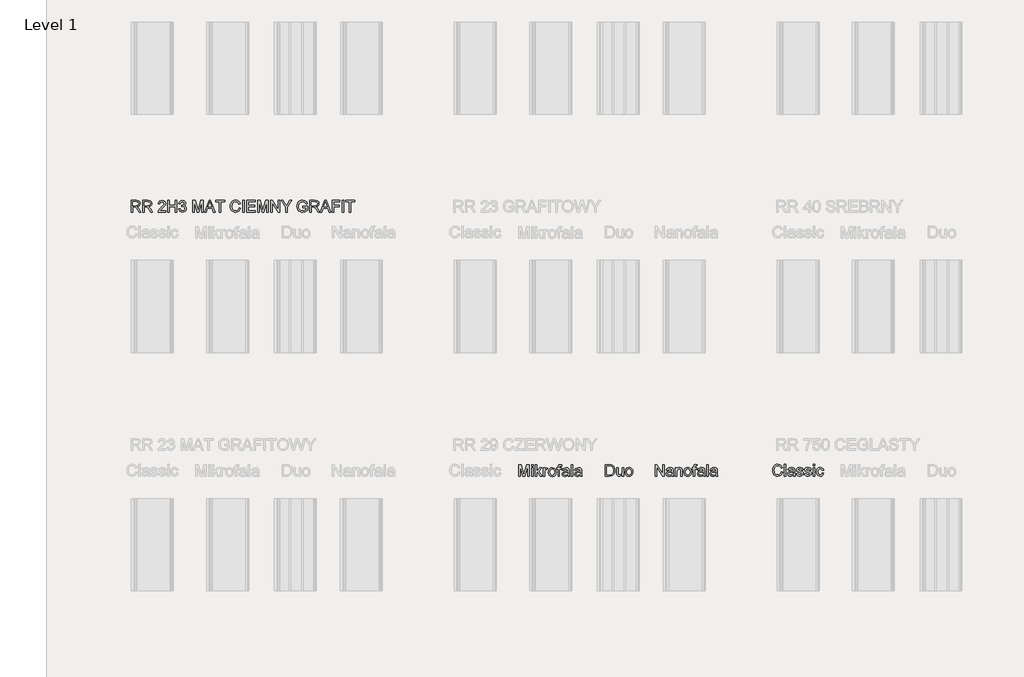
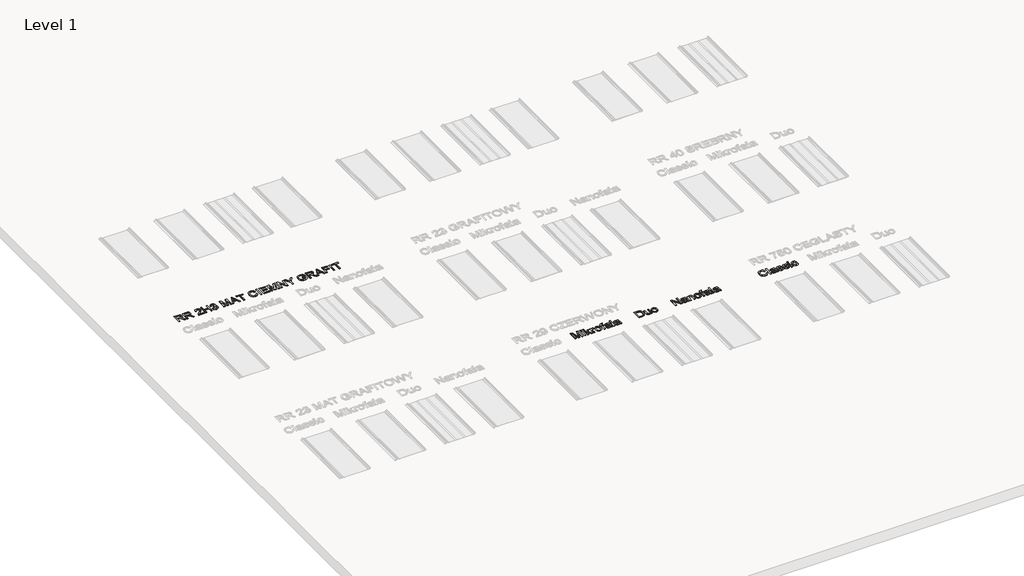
# One storey, part 11 of 22: 5 proxies.
"""IFC4 building model written with IfcOpenShell, lengths in millimetres."""

from ifc_helpers import new_model, si_unit, frame, origin, place, context, project, spatial, polyline, outline, extrude, element, save

model = new_model("IFC4")

# Units and contexts
model_context = context("Model", 3, world=origin())
ifc_project = project(units=[si_unit("LENGTHUNIT", "METRE", prefix="MILLI")], contexts=[model_context])

# Site, building, storey
site = spatial("IfcSite", under=ifc_project)
building = spatial("IfcBuilding", under=site)
storey = spatial("IfcBuildingStorey", under=building, Name="Level 1", Elevation=0.0)

# Proxies
placement = place(None, origin())
element("IfcBuildingElementProxy", 1, Name="150", ObjectType="150", at=placement, inside=storey, context=model_context, shape_type="SweptSolid", body=[
    extrude(outline(polyline([(-3695.6654959, -5075.281387), (-3695.6654959, -4924.5969218), (-3663.3654568, -4924.5969218), (-3632.4633692, -5030.8044538), (-3626.2093753, -5052.9877381), (-3619.4771347, -5028.9650438), (-3589.1636583, -4924.5969218), (-3556.7532546, -4924.5969218), (-3556.7532546, -5075.281387), (-3575.5888127, -5075.281387), (-3575.5888127, -4943.4324799), (-3613.44387, -5075.281387), (-3638.9380923, -5075.281387), (-3676.8299378, -4943.4324799), (-3676.8299378, -5075.281387), (-3695.6654959, -5075.281387)])), frame((0.0, 0.0, 600.0), z_axis=(0.0, 0.0, 1.0), x_axis=(1.0, 0.0, 0.0)), (0.0, 0.0, 1.0), 10.0),
    extrude(outline(polyline([(-3526.1454726, -4943.4324799), (-3526.1454726, -4924.5969218), (-3507.3099144, -4924.5969218), (-3507.3099144, -4943.4324799), (-3526.1454726, -4943.4324799)])), frame((0.0, 0.0, 600.0), z_axis=(0.0, 0.0, 1.0), x_axis=(1.0, 0.0, 0.0)), (0.0, 0.0, 1.0), 10.0),
    extrude(outline(polyline([(-3526.1454726, -5075.281387), (-3526.1454726, -4964.6224829), (-3507.3099144, -4964.6224829), (-3507.3099144, -5075.281387), (-3526.1454726, -5075.281387)])), frame((0.0, 0.0, 600.0), z_axis=(0.0, 0.0, 1.0), x_axis=(1.0, 0.0, 0.0)), (0.0, 0.0, 1.0), 10.0),
    extrude(outline(polyline([(-3479.0565772, -5075.281387), (-3479.0565772, -4924.5969218), (-3460.221019, -4924.5969218), (-3460.221019, -5005.5677489), (-3417.988166, -4964.6224829), (-3391.9421207, -4964.6224829), (-3434.7267968, -5006.0827837), (-3389.587676, -5075.281387), (-3411.5870193, -5075.281387), (-3448.228066, -5019.1793827), (-3460.221019, -5030.841242), (-3460.221019, -5075.281387), (-3479.0565772, -5075.281387)])), frame((0.0, 0.0, 600.0), z_axis=(0.0, 0.0, 1.0), x_axis=(1.0, 0.0, 0.0)), (0.0, 0.0, 1.0), 10.0),
    extrude(outline(polyline([(-3373.1065626, -5075.281387), (-3373.1065626, -4964.6224829), (-3356.6254492, -4964.6224829), (-3356.6254492, -4980.9932316), (-3344.9268017, -4965.9100698), (-3333.1545779, -4962.2680381), (-3314.2454433, -4968.0805736), (-3320.5362255, -4984.9663572), (-3333.7799773, -4981.1035962), (-3344.4301611, -4984.8192044), (-3351.2175839, -4995.1199003), (-3354.2710044, -5017.1192436), (-3354.2710044, -5075.281387), (-3373.1065626, -5075.281387)])), frame((0.0, 0.0, 600.0), z_axis=(0.0, 0.0, 1.0), x_axis=(1.0, 0.0, 0.0)), (0.0, 0.0, 1.0), 10.0),
    extrude(outline(polyline([(-3307.182109, -5019.9519349), (-3303.1078159, -4993.2712932), (-3290.8849367, -4974.5185085), (-3275.7833808, -4965.3306557), (-3257.7019807, -4962.2680381), (-3237.9145279, -4965.9974418), (-3222.1093977, -4977.185653), (-3211.748921, -4994.9497548), (-3208.2954287, -5018.4068306), (-3209.822139, -5037.4355268), (-3214.4022699, -5051.9208803), (-3221.902464, -5062.7688007), (-3232.1893643, -5070.8851972), (-3244.4076451, -5075.9481731), (-3257.7019807, -5077.6358318), (-3277.7285568, -5073.9202236), (-3293.5152929, -5062.7733992), (-3303.765405, -5044.6368168), (-3307.182109, -5019.9519349)]), holes=[polyline([(-3288.3465509, -5019.9151467), (-3286.1668501, -5036.9618787), (-3279.6277476, -5049.1065831), (-3269.7869042, -5056.376851), (-3257.7019807, -5058.8002736), (-3245.6722394, -5056.3630554), (-3235.8497902, -5049.0514008), (-3229.3106877, -5036.745748), (-3227.1309869, -5019.3265355), (-3229.3244833, -5002.7764443), (-3235.9049725, -4990.7972868), (-3245.7412173, -4983.5270189), (-3257.7019807, -4981.1035962), (-3269.7869042, -4983.5178218), (-3279.6277476, -4990.7604986), (-3286.1668501, -5002.8776118), (-3288.3465509, -5019.9151467)])]), frame((0.0, 0.0, 600.0), z_axis=(0.0, 0.0, 1.0), x_axis=(1.0, 0.0, 0.0)), (0.0, 0.0, 1.0), 10.0),
    extrude(outline(polyline([(-3182.3965363, -5075.281387), (-3182.3965363, -4983.458041), (-3198.8776497, -4983.458041), (-3198.8776497, -4964.6224829), (-3182.3965363, -4964.6224829), (-3182.3965363, -4953.4756584), (-3180.4099735, -4937.7670972), (-3170.7714652, -4926.5466964), (-3151.7887543, -4922.242477), (-3134.6086651, -4924.3026162), (-3137.3677801, -4941.960952), (-3148.2202989, -4941.0780352), (-3160.0844933, -4944.2050321), (-3163.5609781, -4955.8668914), (-3163.5609781, -4964.6224829), (-3142.3709752, -4964.6224829), (-3142.3709752, -4983.458041), (-3163.5609781, -4983.458041), (-3163.5609781, -5075.281387), (-3182.3965363, -5075.281387)])), frame((0.0, 0.0, 600.0), z_axis=(0.0, 0.0, 1.0), x_axis=(1.0, 0.0, 0.0)), (0.0, 0.0, 1.0), 10.0),
    extrude(outline(polyline([(-3055.2565187, -5061.1547184), (-3073.5218598, -5073.9202236), (-3093.7001872, -5077.6358318), (-3109.4409381, -5075.4009487), (-3121.0522136, -5068.6962993), (-3128.2121169, -5058.5151651), (-3130.5987514, -5045.8508274), (-3126.9935078, -5030.9516066), (-3117.5205464, -5020.1358759), (-3104.3319769, -5013.9554584), (-3088.0348045, -5011.1227671), (-3055.3668833, -5004.6480439), (-3055.2565187, -5000.4541892), (-3056.5533028, -4992.0480856), (-3060.4436549, -4986.5482498), (-3069.1440641, -4982.4647596), (-3081.2657758, -4981.1035962), (-3100.3220632, -4984.7272339), (-3109.4087484, -4997.5847096), (-3128.2443066, -4995.2302649), (-3120.0957204, -4976.8361651), (-3103.6881834, -4966.0572226), (-3078.8377546, -4962.2680381), (-3056.0106768, -4965.6157643), (-3043.1164129, -4974.0218678), (-3037.3406656, -4986.8057672), (-3036.4209606, -5003.2868806), (-3036.4209606, -5026.7209636), (-3035.4644674, -5059.4440671), (-3031.7120711, -5075.281387), (-3050.5476292, -5075.281387), (-3055.2565187, -5061.1547184)]), holes=[polyline([(-3055.2565187, -5023.4836021), (-3085.6435715, -5029.2593494), (-3101.8487734, -5032.31277), (-3109.1880192, -5037.2791769), (-3111.7631932, -5044.5264522), (-3106.1529928, -5054.7167835), (-3089.6902735, -5058.8002736), (-3070.6339861, -5054.2937192), (-3058.3467275, -5043.386018), (-3055.3668833, -5028.817891), (-3055.2565187, -5023.4836021)])]), frame((0.0, 0.0, 600.0), z_axis=(0.0, 0.0, 1.0), x_axis=(1.0, 0.0, 0.0)), (0.0, 0.0, 1.0), 10.0),
    extrude(outline(polyline([(-3010.5220681, -5075.281387), (-3010.5220681, -4924.5969218), (-2991.68651, -4924.5969218), (-2991.68651, -5075.281387), (-3010.5220681, -5075.281387)])), frame((0.0, 0.0, 600.0), z_axis=(0.0, 0.0, 1.0), x_axis=(1.0, 0.0, 0.0)), (0.0, 0.0, 1.0), 10.0),
    extrude(outline(polyline([(-2892.7998297, -5061.1547184), (-2911.0651707, -5073.9202236), (-2931.2434982, -5077.6358318), (-2946.984249, -5075.4009487), (-2958.5955245, -5068.6962993), (-2965.7554278, -5058.5151651), (-2968.1420623, -5045.8508274), (-2964.5368187, -5030.9516066), (-2955.0638574, -5020.1358759), (-2941.8752878, -5013.9554584), (-2925.5781154, -5011.1227671), (-2892.9101943, -5004.6480439), (-2892.7998297, -5000.4541892), (-2894.0966137, -4992.0480856), (-2897.9869658, -4986.5482498), (-2906.687375, -4982.4647596), (-2918.8090867, -4981.1035962), (-2937.8653741, -4984.7272339), (-2946.9520594, -4997.5847096), (-2965.7876175, -4995.2302649), (-2957.6390313, -4976.8361651), (-2941.2314943, -4966.0572226), (-2916.3810656, -4962.2680381), (-2893.5539878, -4965.6157643), (-2880.6597238, -4974.0218678), (-2874.8839765, -4986.8057672), (-2873.9642715, -5003.2868806), (-2873.9642715, -5026.7209636), (-2873.0077783, -5059.4440671), (-2869.255382, -5075.281387), (-2888.0909401, -5075.281387), (-2892.7998297, -5061.1547184)]), holes=[polyline([(-2892.7998297, -5023.4836021), (-2923.1868825, -5029.2593494), (-2939.3920844, -5032.31277), (-2946.7313302, -5037.2791769), (-2949.3065041, -5044.5264522), (-2943.6963037, -5054.7167835), (-2927.2335844, -5058.8002736), (-2908.1772971, -5054.2937192), (-2895.8900384, -5043.386018), (-2892.9101943, -5028.817891), (-2892.7998297, -5023.4836021)])]), frame((0.0, 0.0, 600.0), z_axis=(0.0, 0.0, 1.0), x_axis=(1.0, 0.0, 0.0)), (0.0, 0.0, 1.0), 10.0),
])
element("IfcBuildingElementProxy", 2, Name="150", ObjectType="150", at=placement, inside=storey, context=model_context, shape_type="SweptSolid", body=[
    extrude(outline(polyline([(-2567.5807075, -5072.1592468), (-2567.5807075, -4921.4747816), (-2515.5989816, -4921.4747816), (-2488.7068077, -4923.6452853), (-2466.5603116, -4934.4242278), (-2456.1400541, -4945.902146), (-2448.7180349, -4960.1759675), (-2444.2758598, -4976.9697805), (-2442.7951347, -4996.0076738), (-2446.8050485, -5026.4131207), (-2457.1057443, -5048.3572817), (-2470.864531, -5062.0240978), (-2488.8723546, -5069.5840728), (-2513.097384, -5072.1592468), (-2567.5807075, -5072.1592468)]), holes=[polyline([(-2548.7451493, -5053.3236886), (-2515.4150406, -5053.3236886), (-2491.1716171, -5050.6013619), (-2477.1921013, -5042.9126282), (-2465.7325771, -5024.2058287), (-2461.6306929, -4995.7133682), (-2463.6402483, -4975.1855529), (-2469.6689145, -4960.0288147), (-2478.5762573, -4949.6177542), (-2489.2218425, -4943.3269721), (-2515.9300754, -4940.3103397), (-2548.7451493, -4940.3103397), (-2548.7451493, -5053.3236886)])]), frame((0.0, 0.0, 600.0), z_axis=(0.0, 0.0, 1.0), x_axis=(1.0, 0.0, 0.0)), (0.0, 0.0, 1.0), 10.0),
    extrude(outline(polyline([(-2348.617344, -5072.1592468), (-2348.617344, -5053.1397476), (-2363.369412, -5069.1702056), (-2382.6096403, -5074.5136916), (-2400.3231584, -5070.7612952), (-2412.5368406, -5061.3435161), (-2418.1470411, -5047.4743649), (-2419.250687, -5029.9631819), (-2419.250687, -4961.5003426), (-2400.4151289, -4961.5003426), (-2400.4151289, -5021.0972259), (-2399.2746947, -5040.300666), (-2391.8250843, -5051.5762492), (-2377.7903862, -5055.6781334), (-2362.0634309, -5051.4842787), (-2351.6707645, -5040.0615427), (-2348.617344, -5019.0738749), (-2348.617344, -4961.5003426), (-2329.7817858, -4961.5003426), (-2329.7817858, -5072.1592468), (-2348.617344, -5072.1592468)])), frame((0.0, 0.0, 600.0), z_axis=(0.0, 0.0, 1.0), x_axis=(1.0, 0.0, 0.0)), (0.0, 0.0, 1.0), 10.0),
    extrude(outline(polyline([(-2308.5917829, -5016.8297947), (-2304.5174898, -4990.149153), (-2292.2946105, -4971.3963683), (-2277.1930546, -4962.2085155), (-2259.1116545, -4959.1458979), (-2239.3242017, -4962.8753016), (-2223.5190715, -4974.0635128), (-2213.1585948, -4991.8276146), (-2209.7051026, -5015.2846903), (-2211.2318129, -5034.3133865), (-2215.8119437, -5048.7987401), (-2223.3121379, -5059.6466604), (-2233.5990382, -5067.7630569), (-2245.8173189, -5072.8260329), (-2259.1116545, -5074.5136916), (-2279.1382307, -5070.7980834), (-2294.9249668, -5059.651259), (-2305.1750789, -5041.5146766), (-2308.5917829, -5016.8297947)]), holes=[polyline([(-2289.7562247, -5016.7930065), (-2287.5765239, -5033.8397385), (-2281.0374215, -5045.9844428), (-2271.1965781, -5053.2547108), (-2259.1116545, -5055.6781334), (-2247.0819133, -5053.2409152), (-2237.259464, -5045.9292605), (-2230.7203616, -5033.6236078), (-2228.5406607, -5016.2043953), (-2230.7341571, -4999.6543041), (-2237.3146463, -4987.6751466), (-2247.1508912, -4980.4048787), (-2259.1116545, -4977.981456), (-2271.1965781, -4980.3956816), (-2281.0374215, -4987.6383584), (-2287.5765239, -4999.7554716), (-2289.7562247, -5016.7930065)])]), frame((0.0, 0.0, 600.0), z_axis=(0.0, 0.0, 1.0), x_axis=(1.0, 0.0, 0.0)), (0.0, 0.0, 1.0), 10.0),
])
element("IfcBuildingElementProxy", 3, Name="150", ObjectType="150", at=placement, inside=storey, context=model_context, shape_type="SweptSolid", body=[
    extrude(outline(polyline([(-279.0085992, -5017.1818641), (-260.1730411, -5022.0379064), (-268.8642532, -5043.986666), (-282.5034782, -5060.0217224), (-300.4193314, -5069.8303761), (-321.9404281, -5073.0999274), (-343.7880201, -5070.6259209), (-361.1382547, -5063.2039017), (-374.4371888, -5051.091387), (-384.1308794, -5034.5458943), (-390.049181, -5015.0941338), (-392.0219482, -4994.2628158), (-389.7916636, -4972.2910636), (-383.1008098, -4953.3175497), (-372.2988747, -4937.9446809), (-357.7353462, -4926.7748638), (-340.4632865, -4919.9736454), (-321.5357579, -4917.7065726), (-300.8837824, -4920.6404315), (-283.8094593, -4929.4420082), (-270.8462175, -4943.5686769), (-262.5274859, -4962.4778114), (-281.363044, -4966.9659718), (-287.8929494, -4953.2301778), (-296.8140878, -4943.8078002), (-308.2368238, -4938.3585481), (-322.2715219, -4936.5421308), (-338.4491326, -4938.5562847), (-351.7388697, -4944.5987464), (-361.8234349, -4954.0349196), (-368.38553, -4966.2302078), (-373.18639, -4994.2260276), (-371.7654458, -5011.626846), (-367.5026132, -5026.6732196), (-360.2369438, -5038.7903328), (-349.8074892, -5047.40337), (-337.3040999, -5052.5491194), (-323.8166263, -5054.2643692), (-308.0942695, -5051.9283185), (-294.9930719, -5044.9201665), (-285.1016448, -5033.3134896), (-279.0085992, -5017.1818641)])), frame((0.0, 0.0, 600.0), z_axis=(0.0, 0.0, 1.0), x_axis=(1.0, 0.0, 0.0)), (0.0, 0.0, 1.0), 10.0),
    extrude(outline(polyline([(-236.6285934, -5070.7454826), (-236.6285934, -4920.0610174), (-217.7930352, -4920.0610174), (-217.7930352, -5070.7454826), (-236.6285934, -5070.7454826)])), frame((0.0, 0.0, 600.0), z_axis=(0.0, 0.0, 1.0), x_axis=(1.0, 0.0, 0.0)), (0.0, 0.0, 1.0), 10.0),
    extrude(outline(polyline([(-118.9063549, -5056.618814), (-137.171696, -5069.3843192), (-157.3500234, -5073.0999274), (-173.0907743, -5070.8650442), (-184.7020498, -5064.1603949), (-191.8619531, -5053.9792607), (-194.2485875, -5041.314923), (-190.643344, -5026.4157022), (-181.1703826, -5015.5999715), (-167.9818131, -5009.419554), (-151.6846407, -5006.5868626), (-119.0167195, -5000.1121395), (-118.9063549, -4995.9182848), (-120.203139, -4987.5121812), (-124.0934911, -4982.0123454), (-132.7939003, -4977.9288552), (-144.915612, -4976.5676918), (-163.9718993, -4980.1913295), (-173.0585846, -4993.0488052), (-191.8941428, -4990.6943604), (-183.7455566, -4972.3002607), (-167.3380196, -4961.5213182), (-142.4875908, -4957.7321337), (-119.660513, -4961.0798598), (-106.7662491, -4969.4859634), (-100.9905018, -4982.2698628), (-100.0707968, -4998.7509761), (-100.0707968, -5022.1850592), (-99.1143036, -5054.9081627), (-95.3619072, -5070.7454826), (-114.1974654, -5070.7454826), (-118.9063549, -5056.618814)]), holes=[polyline([(-118.9063549, -5018.9476977), (-149.2934077, -5024.723445), (-165.4986096, -5027.7768656), (-172.8378554, -5032.7432725), (-175.4130294, -5039.9905478), (-169.802829, -5050.1808791), (-153.3401097, -5054.2643692), (-134.2838223, -5049.7578148), (-121.9965637, -5038.8501136), (-119.0167195, -5024.2819866), (-118.9063549, -5018.9476977)])]), frame((0.0, 0.0, 600.0), z_axis=(0.0, 0.0, 1.0), x_axis=(1.0, 0.0, 0.0)), (0.0, 0.0, 1.0), 10.0),
    extrude(outline(polyline([(-81.2352386, -5037.7832558), (-62.3996805, -5035.4288111), (-59.4290334, -5043.4854268), (-53.6808772, -5049.4083269), (-33.7048849, -5054.2643692), (-14.5014447, -5049.8129971), (-8.2474508, -5039.3651484), (-9.8201463, -5034.5642884), (-14.5382329, -5030.9038625), (-33.9256141, -5025.5327854), (-62.2893159, -5016.3173414), (-74.668545, -5005.5567931), (-78.8807939, -4990.3632666), (-75.4962795, -4976.3285685), (-66.2624414, -4965.6048084), (-54.2878825, -4960.0313961), (-38.0826806, -4957.7321337), (-15.1636323, -4961.4293477), (-0.5955053, -4971.435738), (5.8792178, -4988.3399157), (-12.9563403, -4990.6943604), (-20.0380687, -4980.3016941), (-36.6111526, -4976.5676918), (-54.6373704, -4980.1361472), (-60.0452357, -4988.4502803), (-57.8011555, -4993.931722), (-50.7746094, -4998.0887885), (-34.5510134, -5002.0987023), (-6.9046815, -5010.9646584), (5.9344001, -5021.0078368), (10.5881074, -5037.3785856), (5.1250597, -5055.4048034), (-10.6386838, -5068.4830083), (-33.9624023, -5073.0999274), (-52.9543103, -5070.8742413), (-66.8142644, -5064.1971831), (-76.0664966, -5053.1423291), (-81.2352386, -5037.7832558)])), frame((0.0, 0.0, 600.0), z_axis=(0.0, 0.0, 1.0), x_axis=(1.0, 0.0, 0.0)), (0.0, 0.0, 1.0), 10.0),
    extrude(outline(polyline([(24.714776, -5037.7832558), (43.5503341, -5035.4288111), (46.5209812, -5043.4854268), (52.2691374, -5049.4083269), (72.2451298, -5054.2643692), (91.4485699, -5049.8129971), (97.7025638, -5039.3651484), (96.1298683, -5034.5642884), (91.4117817, -5030.9038625), (72.0244006, -5025.5327854), (43.6606987, -5016.3173414), (31.2814696, -5005.5567931), (27.0692207, -4990.3632666), (30.4537351, -4976.3285685), (39.6875732, -4965.6048084), (51.6621321, -4960.0313961), (67.867334, -4957.7321337), (90.7863823, -4961.4293477), (105.3545093, -4971.435738), (111.8292324, -4988.3399157), (92.9936743, -4990.6943604), (85.9119459, -4980.3016941), (69.338862, -4976.5676918), (51.3126442, -4980.1361472), (45.9047789, -4988.4502803), (48.1488591, -4993.931722), (55.1754052, -4998.0887885), (71.3990012, -5002.0987023), (99.0453331, -5010.9646584), (111.8844147, -5021.0078368), (116.538122, -5037.3785856), (111.0750743, -5055.4048034), (95.3113309, -5068.4830083), (71.9876124, -5073.0999274), (52.9957044, -5070.8742413), (39.1357502, -5064.1971831), (29.883518, -5053.1423291), (24.714776, -5037.7832558)])), frame((0.0, 0.0, 600.0), z_axis=(0.0, 0.0, 1.0), x_axis=(1.0, 0.0, 0.0)), (0.0, 0.0, 1.0), 10.0),
    extrude(outline(polyline([(137.7281249, -4938.8965755), (137.7281249, -4920.0610174), (156.5636831, -4920.0610174), (156.5636831, -4938.8965755), (137.7281249, -4938.8965755)])), frame((0.0, 0.0, 600.0), z_axis=(0.0, 0.0, 1.0), x_axis=(1.0, 0.0, 0.0)), (0.0, 0.0, 1.0), 10.0),
    extrude(outline(polyline([(137.7281249, -5070.7454826), (137.7281249, -4960.0865784), (156.5636831, -4960.0865784), (156.5636831, -5070.7454826), (137.7281249, -5070.7454826)])), frame((0.0, 0.0, 600.0), z_axis=(0.0, 0.0, 1.0), x_axis=(1.0, 0.0, 0.0)), (0.0, 0.0, 1.0), 10.0),
    extrude(outline(polyline([(255.4503634, -5030.7199215), (274.2859215, -5033.0743663), (269.034406, -5049.8267926), (259.1659715, -5062.4865318), (245.60952, -5070.4465785), (229.2939535, -5073.0999274), (209.2581803, -5069.3981148), (193.5910059, -5058.2926771), (183.4788495, -5040.2710578), (180.1081307, -5015.8207007), (181.547469, -4999.0590773), (185.865484, -4984.532337), (193.1311534, -4972.8014999), (203.4134551, -4964.427586), (215.7145094, -4959.4059968), (229.0364361, -4957.7321337), (244.9519309, -4960.0313961), (257.6760494, -4966.9291836), (266.8041214, -4978.0576139), (271.9314767, -4993.0488052), (253.0959186, -4995.40325), (244.3587212, -4981.2949755), (229.1835889, -4976.5676918), (217.0112934, -4978.8945454), (207.3497925, -4985.8751063), (201.0452148, -4997.8864535), (198.9436889, -5015.3056659), (200.9992295, -5032.9594032), (207.1658515, -5045.012137), (216.6526084, -5051.9513112), (228.6685541, -5054.2643692), (238.4220255, -5052.8204324), (246.4188604, -5048.4886219), (252.2359944, -5041.1585731), (255.4503634, -5030.7199215)])), frame((0.0, 0.0, 600.0), z_axis=(0.0, 0.0, 1.0), x_axis=(1.0, 0.0, 0.0)), (0.0, 0.0, 1.0), 10.0),
])
element("IfcBuildingElementProxy", 4, Name="150", ObjectType="150", at=placement, inside=storey, context=model_context, shape_type="SweptSolid", body=[
    extrude(outline(polyline([(-1919.1806572, -5072.1592468), (-1919.1806572, -4921.4747816), (-1899.0207239, -4921.4747816), (-1820.2939769, -5040.852489), (-1820.2939769, -4921.4747816), (-1801.4584188, -4921.4747816), (-1801.4584188, -5072.1592468), (-1821.6183521, -5072.1592468), (-1900.3450991, -4952.7447512), (-1900.3450991, -5072.1592468), (-1919.1806572, -5072.1592468)])), frame((0.0, 0.0, 600.0), z_axis=(0.0, 0.0, 1.0), x_axis=(1.0, 0.0, 0.0)), (0.0, 0.0, 1.0), 10.0),
    extrude(outline(polyline([(-1700.2172937, -5058.0325782), (-1718.4826347, -5070.7980834), (-1738.6609622, -5074.5136916), (-1754.401713, -5072.2788084), (-1766.0129885, -5065.5741591), (-1773.1728919, -5055.3930249), (-1775.5595263, -5042.7286872), (-1771.9542827, -5027.8294664), (-1762.4813214, -5017.0137357), (-1749.2927518, -5010.8333182), (-1732.9955795, -5008.0006268), (-1700.3276583, -5001.5259037), (-1700.2172937, -4997.332049), (-1701.5140777, -4988.9259454), (-1705.4044298, -4983.4261096), (-1714.104839, -4979.3426194), (-1726.2265507, -4977.981456), (-1745.2828381, -4981.6050937), (-1754.3695234, -4994.4625694), (-1773.2050815, -4992.1081246), (-1765.0564953, -4973.7140249), (-1748.6489583, -4962.9350824), (-1723.7985296, -4959.1458979), (-1700.9714518, -4962.493624), (-1688.0771878, -4970.8997276), (-1682.3014405, -4983.683627), (-1681.3817355, -5000.1647403), (-1681.3817355, -5023.5988234), (-1680.4252423, -5056.3219269), (-1676.672846, -5072.1592468), (-1695.5084041, -5072.1592468), (-1700.2172937, -5058.0325782)]), holes=[polyline([(-1700.2172937, -5020.3614619), (-1730.6043465, -5026.1372092), (-1746.8095484, -5029.1906298), (-1754.1487942, -5034.1570367), (-1756.7239681, -5041.404312), (-1751.1137677, -5051.5946433), (-1734.6510484, -5055.6781334), (-1715.5947611, -5051.171579), (-1703.3075024, -5040.2638778), (-1700.3276583, -5025.6957508), (-1700.2172937, -5020.3614619)])]), frame((0.0, 0.0, 600.0), z_axis=(0.0, 0.0, 1.0), x_axis=(1.0, 0.0, 0.0)), (0.0, 0.0, 1.0), 10.0),
    extrude(outline(polyline([(-1655.4828431, -5072.1592468), (-1655.4828431, -4961.5003426), (-1636.6472849, -4961.5003426), (-1636.6472849, -4976.9513864), (-1622.2447048, -4963.59727), (-1602.5814122, -4959.1458979), (-1584.7943177, -4962.7327473), (-1572.6542119, -4972.1505264), (-1567.0072232, -4986.0012835), (-1566.0139418, -5004.2114423), (-1566.0139418, -5072.1592468), (-1584.8495, -5072.1592468), (-1584.8495, -5006.749828), (-1587.0200038, -4990.0847737), (-1594.6903434, -4981.2739999), (-1607.6213955, -4977.981456), (-1618.6532568, -4979.8300631), (-1628.0572403, -4985.3758841), (-1634.4997738, -4996.0904472), (-1636.6472849, -5013.4452804), (-1636.6472849, -5072.1592468), (-1655.4828431, -5072.1592468)])), frame((0.0, 0.0, 600.0), z_axis=(0.0, 0.0, 1.0), x_axis=(1.0, 0.0, 0.0)), (0.0, 0.0, 1.0), 10.0),
    extrude(outline(polyline([(-1544.8239389, -5016.8297947), (-1540.7496458, -4990.149153), (-1528.5267665, -4971.3963683), (-1513.4252106, -4962.2085155), (-1495.3438106, -4959.1458979), (-1475.5563578, -4962.8753016), (-1459.7512275, -4974.0635128), (-1449.3907508, -4991.8276146), (-1445.9372586, -5015.2846903), (-1447.4639689, -5034.3133865), (-1452.0440997, -5048.7987401), (-1459.5442939, -5059.6466604), (-1469.8311942, -5067.7630569), (-1482.049475, -5072.8260329), (-1495.3438106, -5074.5136916), (-1515.3703867, -5070.7980834), (-1531.1571228, -5059.651259), (-1541.4072349, -5041.5146766), (-1544.8239389, -5016.8297947)]), holes=[polyline([(-1525.9883808, -5016.7930065), (-1523.8086799, -5033.8397385), (-1517.2695775, -5045.9844428), (-1507.4287341, -5053.2547108), (-1495.3438106, -5055.6781334), (-1483.3140693, -5053.2409152), (-1473.4916201, -5045.9292605), (-1466.9525176, -5033.6236078), (-1464.7728168, -5016.2043953), (-1466.9663132, -4999.6543041), (-1473.5468024, -4987.6751466), (-1483.3830472, -4980.4048787), (-1495.3438106, -4977.981456), (-1507.4287341, -4980.3956816), (-1517.2695775, -4987.6383584), (-1523.8086799, -4999.7554716), (-1525.9883808, -5016.7930065)])]), frame((0.0, 0.0, 600.0), z_axis=(0.0, 0.0, 1.0), x_axis=(1.0, 0.0, 0.0)), (0.0, 0.0, 1.0), 10.0),
    extrude(outline(polyline([(-1420.0383662, -5072.1592468), (-1420.0383662, -4980.3359008), (-1436.5194795, -4980.3359008), (-1436.5194795, -4961.5003426), (-1420.0383662, -4961.5003426), (-1420.0383662, -4950.3535182), (-1418.0518034, -4934.644957), (-1408.4132951, -4923.4245561), (-1389.4305842, -4919.1203368), (-1372.250495, -4921.180476), (-1375.0096099, -4938.8388117), (-1385.8621288, -4937.955895), (-1397.7263231, -4941.0828919), (-1401.202808, -4952.7447512), (-1401.202808, -4961.5003426), (-1380.0128051, -4961.5003426), (-1380.0128051, -4980.3359008), (-1401.202808, -4980.3359008), (-1401.202808, -5072.1592468), (-1420.0383662, -5072.1592468)])), frame((0.0, 0.0, 600.0), z_axis=(0.0, 0.0, 1.0), x_axis=(1.0, 0.0, 0.0)), (0.0, 0.0, 1.0), 10.0),
    extrude(outline(polyline([(-1292.8983486, -5058.0325782), (-1311.1636897, -5070.7980834), (-1331.3420171, -5074.5136916), (-1347.082768, -5072.2788084), (-1358.6940435, -5065.5741591), (-1365.8539468, -5055.3930249), (-1368.2405812, -5042.7286872), (-1364.6353377, -5027.8294664), (-1355.1623763, -5017.0137357), (-1341.9738068, -5010.8333182), (-1325.6766344, -5008.0006268), (-1293.0087132, -5001.5259037), (-1292.8983486, -4997.332049), (-1294.1951327, -4988.9259454), (-1298.0854848, -4983.4261096), (-1306.7858939, -4979.3426194), (-1318.9076057, -4977.981456), (-1337.963893, -4981.6050937), (-1347.0505783, -4994.4625694), (-1365.8861365, -4992.1081246), (-1357.7375503, -4973.7140249), (-1341.3300133, -4962.9350824), (-1316.4795845, -4959.1458979), (-1293.6525067, -4962.493624), (-1280.7582428, -4970.8997276), (-1274.9824955, -4983.683627), (-1274.0627905, -5000.1647403), (-1274.0627905, -5023.5988234), (-1273.1062973, -5056.3219269), (-1269.3539009, -5072.1592468), (-1288.1894591, -5072.1592468), (-1292.8983486, -5058.0325782)]), holes=[polyline([(-1292.8983486, -5020.3614619), (-1323.2854014, -5026.1372092), (-1339.4906033, -5029.1906298), (-1346.8298491, -5034.1570367), (-1349.4050231, -5041.404312), (-1343.7948227, -5051.5946433), (-1327.3321034, -5055.6781334), (-1308.275816, -5051.171579), (-1295.9885574, -5040.2638778), (-1293.0087132, -5025.6957508), (-1292.8983486, -5020.3614619)])]), frame((0.0, 0.0, 600.0), z_axis=(0.0, 0.0, 1.0), x_axis=(1.0, 0.0, 0.0)), (0.0, 0.0, 1.0), 10.0),
    extrude(outline(polyline([(-1248.163898, -5072.1592468), (-1248.163898, -4921.4747816), (-1229.3283399, -4921.4747816), (-1229.3283399, -5072.1592468), (-1248.163898, -5072.1592468)])), frame((0.0, 0.0, 600.0), z_axis=(0.0, 0.0, 1.0), x_axis=(1.0, 0.0, 0.0)), (0.0, 0.0, 1.0), 10.0),
    extrude(outline(polyline([(-1130.4416596, -5058.0325782), (-1148.7070006, -5070.7980834), (-1168.885328, -5074.5136916), (-1184.6260789, -5072.2788084), (-1196.2373544, -5065.5741591), (-1203.3972577, -5055.3930249), (-1205.7838922, -5042.7286872), (-1202.1786486, -5027.8294664), (-1192.7056872, -5017.0137357), (-1179.5171177, -5010.8333182), (-1163.2199453, -5008.0006268), (-1130.5520242, -5001.5259037), (-1130.4416596, -4997.332049), (-1131.7384436, -4988.9259454), (-1135.6287957, -4983.4261096), (-1144.3292049, -4979.3426194), (-1156.4509166, -4977.981456), (-1175.507204, -4981.6050937), (-1184.5938892, -4994.4625694), (-1203.4294474, -4992.1081246), (-1195.2808612, -4973.7140249), (-1178.8733242, -4962.9350824), (-1154.0228954, -4959.1458979), (-1131.1958176, -4962.493624), (-1118.3015537, -4970.8997276), (-1112.5258064, -4983.683627), (-1111.6061014, -5000.1647403), (-1111.6061014, -5023.5988234), (-1110.6496082, -5056.3219269), (-1106.8972119, -5072.1592468), (-1125.73277, -5072.1592468), (-1130.4416596, -5058.0325782)]), holes=[polyline([(-1130.4416596, -5020.3614619), (-1160.8287124, -5026.1372092), (-1177.0339142, -5029.1906298), (-1184.37316, -5034.1570367), (-1186.948334, -5041.404312), (-1181.3381336, -5051.5946433), (-1164.8754143, -5055.6781334), (-1145.819127, -5051.171579), (-1133.5318683, -5040.2638778), (-1130.5520242, -5025.6957508), (-1130.4416596, -5020.3614619)])]), frame((0.0, 0.0, 600.0), z_axis=(0.0, 0.0, 1.0), x_axis=(1.0, 0.0, 0.0)), (0.0, 0.0, 1.0), 10.0),
])
element("IfcBuildingElementProxy", 5, Name="150 Blue", ObjectType="150 Blue", at=placement, inside=storey, context=model_context, shape_type="SweptSolid", body=[
    extrude(outline(polyline([(-8736.4118342, -1635.6514112), (-8736.4118342, -1484.966946), (-8671.4806621, -1484.966946), (-8641.3327325, -1489.032042), (-8632.0529092, -1494.6606365), (-8624.8516192, -1503.416228), (-8620.2301016, -1514.2733454), (-8618.6895957, -1526.2065176), (-8621.2417771, -1541.0505561), (-8628.8983211, -1553.3562089), (-8641.8891541, -1562.3785148), (-8660.4442022, -1567.3725129), (-8649.7388361, -1575.4291286), (-8634.4717333, -1594.8165097), (-8609.3453931, -1635.6514112), (-8631.2343718, -1635.6514112), (-8650.8424821, -1604.4182298), (-8665.0059389, -1583.7432617), (-8674.9571469, -1573.9759947), (-8683.9150735, -1570.3891452), (-8694.8411687, -1569.7269577), (-8717.576276, -1569.7269577), (-8717.576276, -1635.6514112), (-8736.4118342, -1635.6514112)]), holes=[polyline([(-8717.576276, -1550.8913995), (-8675.4169994, -1550.8913995), (-8653.9142968, -1548.224255), (-8641.7006145, -1539.6893927), (-8637.5251539, -1526.9054934), (-8639.5163152, -1517.7176406), (-8645.4897991, -1510.3140154), (-8655.7675023, -1505.4303819), (-8670.6713217, -1503.8025041), (-8717.576276, -1503.8025041), (-8717.576276, -1550.8913995)])]), frame((0.0, 0.0, 600.0), z_axis=(0.0, 0.0, 1.0), x_axis=(1.0, 0.0, 0.0)), (0.0, 0.0, 1.0), 10.0),
    extrude(outline(polyline([(-8585.727369, -1635.6514112), (-8585.727369, -1484.966946), (-8520.7961968, -1484.966946), (-8490.6482673, -1489.032042), (-8481.368444, -1494.6606365), (-8474.1671539, -1503.416228), (-8469.5456364, -1514.2733454), (-8468.0051305, -1526.2065176), (-8470.5573119, -1541.0505561), (-8478.2138559, -1553.3562089), (-8491.2046888, -1562.3785148), (-8509.759737, -1567.3725129), (-8499.0543709, -1575.4291286), (-8483.7872681, -1594.8165097), (-8458.6609278, -1635.6514112), (-8480.5499066, -1635.6514112), (-8500.1580169, -1604.4182298), (-8514.3214737, -1583.7432617), (-8524.2726817, -1573.9759947), (-8533.2306083, -1570.3891452), (-8544.1567035, -1569.7269577), (-8566.8918108, -1569.7269577), (-8566.8918108, -1635.6514112), (-8585.727369, -1635.6514112)]), holes=[polyline([(-8566.8918108, -1550.8913995), (-8524.7325342, -1550.8913995), (-8503.2298316, -1548.224255), (-8491.0161493, -1539.6893927), (-8486.8406887, -1526.9054934), (-8488.83185, -1517.7176406), (-8494.8053339, -1510.3140154), (-8505.0830371, -1505.4303819), (-8519.9868564, -1503.8025041), (-8566.8918108, -1503.8025041), (-8566.8918108, -1550.8913995)])]), frame((0.0, 0.0, 600.0), z_axis=(0.0, 0.0, 1.0), x_axis=(1.0, 0.0, 0.0)), (0.0, 0.0, 1.0), 10.0),
    extrude(outline(polyline([(-8286.7128833, -1616.815853), (-8286.7128833, -1635.6514112), (-8385.5995636, -1635.6514112), (-8383.5762126, -1622.6651768), (-8372.1166885, -1602.6707903), (-8348.5170585, -1580.8369939), (-8316.0146842, -1549.4566597), (-8309.9308357, -1538.6409291), (-8307.9028862, -1528.119504), (-8309.8204711, -1518.6879293), (-8315.5732258, -1510.8474443), (-8324.4161893, -1505.5637392), (-8335.6044005, -1503.8025041), (-8347.3536317, -1505.5223524), (-8356.4817037, -1510.6818974), (-8362.3724141, -1518.8764689), (-8364.4095607, -1529.7013966), (-8383.2451188, -1527.3469518), (-8378.6787836, -1509.127596), (-8368.8057505, -1495.8194648), (-8354.1410545, -1487.6800757), (-8335.1997303, -1484.966946), (-8316.1204503, -1487.9835783), (-8301.4833454, -1497.0334754), (-8292.1713324, -1510.5531387), (-8289.0673281, -1526.9790698), (-8292.4150542, -1544.8397407), (-8303.5434846, -1563.3074168), (-8330.5276289, -1589.1143388), (-8352.1958784, -1607.2325271), (-8360.6939525, -1616.815853), (-8286.7128833, -1616.815853)])), frame((0.0, 0.0, 600.0), z_axis=(0.0, 0.0, 1.0), x_axis=(1.0, 0.0, 0.0)), (0.0, 0.0, 1.0), 10.0),
    extrude(outline(polyline([(-8260.8139908, -1635.6514112), (-8260.8139908, -1484.966946), (-8241.9784327, -1484.966946), (-8241.9784327, -1546.18251), (-8161.9273105, -1546.18251), (-8161.9273105, -1484.966946), (-8143.0917524, -1484.966946), (-8143.0917524, -1635.6514112), (-8161.9273105, -1635.6514112), (-8161.9273105, -1565.0180681), (-8241.9784327, -1565.0180681), (-8241.9784327, -1635.6514112), (-8260.8139908, -1635.6514112)])), frame((0.0, 0.0, 600.0), z_axis=(0.0, 0.0, 1.0), x_axis=(1.0, 0.0, 0.0)), (0.0, 0.0, 1.0), 10.0),
    extrude(outline(polyline([(-8117.1928599, -1595.6258501), (-8098.3573018, -1593.2714053), (-8094.1404544, -1605.1080085), (-8087.9646354, -1613.1002449), (-8079.5263421, -1617.6527846), (-8068.522072, -1619.1702978), (-8055.6094139, -1617.0825675), (-8045.6398119, -1610.8193765), (-8039.2662563, -1601.4751738), (-8037.1417378, -1590.1444084), (-8039.2478622, -1579.3884586), (-8045.5662355, -1570.6650567), (-8055.1311673, -1564.8847109), (-8066.9769676, -1562.9579289), (-8080.1839312, -1565.0180681), (-8078.0870038, -1546.18251), (-8075.0703715, -1546.4032392), (-8053.6964276, -1540.9953738), (-8046.5779109, -1534.1343746), (-8044.2050721, -1524.3671076), (-8045.9249204, -1516.232317), (-8051.0844654, -1509.6334337), (-8058.9571401, -1505.2602365), (-8068.8163776, -1503.8025041), (-8078.6940091, -1505.2740321), (-8086.7690189, -1509.688616), (-8092.6643279, -1517.0462559), (-8096.002857, -1527.3469518), (-8114.8384152, -1524.992507), (-8109.2925941, -1508.0791323), (-8099.4241596, -1495.4515828), (-8085.9228903, -1487.5881052), (-8069.4785651, -1484.966946), (-8046.7618519, -1490.135688), (-8030.8693498, -1504.2623566), (-8025.3695139, -1523.2634617), (-8030.5934383, -1540.6274918), (-8046.0444821, -1553.0986915), (-8034.2538641, -1557.8627633), (-8025.5166667, -1565.9745613), (-8020.1088014, -1576.9926271), (-8018.3061796, -1590.4755022), (-8021.9114232, -1608.8328137), (-8032.7271538, -1624.1734929), (-8049.0519174, -1634.5477652), (-8069.1842596, -1638.005856), (-8087.3944183, -1635.0536029), (-8102.2200627, -1626.1968439), (-8112.5299556, -1612.6495894), (-8117.1928599, -1595.6258501)])), frame((0.0, 0.0, 600.0), z_axis=(0.0, 0.0, 1.0), x_axis=(1.0, 0.0, 0.0)), (0.0, 0.0, 1.0), 10.0),
    extrude(outline(polyline([(-7935.9006127, -1635.6514112), (-7935.9006127, -1484.966946), (-7903.6005735, -1484.966946), (-7872.6984859, -1591.174478), (-7866.444492, -1613.3577623), (-7859.7122515, -1589.335068), (-7829.3987751, -1484.966946), (-7796.9883713, -1484.966946), (-7796.9883713, -1635.6514112), (-7815.8239295, -1635.6514112), (-7815.8239295, -1503.8025041), (-7853.6789868, -1635.6514112), (-7879.173209, -1635.6514112), (-7917.0650545, -1503.8025041), (-7917.0650545, -1635.6514112), (-7935.9006127, -1635.6514112)])), frame((0.0, 0.0, 600.0), z_axis=(0.0, 0.0, 1.0), x_axis=(1.0, 0.0, 0.0)), (0.0, 0.0, 1.0), 10.0),
    extrude(outline(polyline([(-7781.5373275, -1635.6514112), (-7721.3886213, -1484.966946), (-7705.3489663, -1484.966946), (-7645.2370483, -1635.6514112), (-7665.1394642, -1635.6514112), (-7682.3563416, -1588.5625158), (-7744.4548224, -1588.5625158), (-7761.6716998, -1635.6514112), (-7781.5373275, -1635.6514112)]), holes=[polyline([(-7737.5386409, -1569.7269577), (-7689.2357349, -1569.7269577), (-7702.8473688, -1532.6812407), (-7713.405582, -1503.8025041), (-7722.7865729, -1529.4438792), (-7737.5386409, -1569.7269577)])]), frame((0.0, 0.0, 600.0), z_axis=(0.0, 0.0, 1.0), x_axis=(1.0, 0.0, 0.0)), (0.0, 0.0, 1.0), 10.0),
    extrude(outline(polyline([(-7587.4427869, -1635.6514112), (-7587.4427869, -1503.8025041), (-7636.886127, -1503.8025041), (-7636.886127, -1484.966946), (-7519.1638886, -1484.966946), (-7519.1638886, -1503.8025041), (-7568.6072287, -1503.8025041), (-7568.6072287, -1635.6514112), (-7587.4427869, -1635.6514112)])), frame((0.0, 0.0, 600.0), z_axis=(0.0, 0.0, 1.0), x_axis=(1.0, 0.0, 0.0)), (0.0, 0.0, 1.0), 10.0),
    extrude(outline(polyline([(-7333.1627518, -1582.0877927), (-7314.3271936, -1586.943835), (-7323.0184058, -1608.8925946), (-7336.6576308, -1624.927651), (-7354.5734839, -1634.7363047), (-7376.0945806, -1638.005856), (-7397.9421726, -1635.5318495), (-7415.2924072, -1628.1098303), (-7428.5913413, -1615.9973156), (-7438.2850319, -1599.4518229), (-7444.2033335, -1580.0000624), (-7446.1761007, -1559.1687444), (-7443.9458161, -1537.1969922), (-7437.2549623, -1518.2234783), (-7426.4530273, -1502.8506095), (-7411.8894988, -1491.6807924), (-7394.6174391, -1484.879574), (-7375.6899104, -1482.6125012), (-7355.0379349, -1485.5463601), (-7337.9636118, -1494.3479368), (-7325.00037, -1508.4746055), (-7316.6816384, -1527.38374), (-7335.5171966, -1531.8719003), (-7342.047102, -1518.1361064), (-7350.9682404, -1508.7137288), (-7362.3909763, -1503.2644767), (-7376.4256744, -1501.4480593), (-7392.6032852, -1503.4622133), (-7405.8930222, -1509.504675), (-7415.9775874, -1518.9408482), (-7422.5396825, -1531.1361364), (-7427.3405426, -1559.1319562), (-7425.9195984, -1576.5327746), (-7421.6567657, -1591.5791482), (-7414.3910963, -1603.6962614), (-7403.9616418, -1612.3092986), (-7391.4582525, -1617.455048), (-7377.9707788, -1619.1702978), (-7362.248422, -1616.8342471), (-7349.1472245, -1609.8260951), (-7339.2557973, -1598.2194182), (-7333.1627518, -1582.0877927)])), frame((0.0, 0.0, 600.0), z_axis=(0.0, 0.0, 1.0), x_axis=(1.0, 0.0, 0.0)), (0.0, 0.0, 1.0), 10.0),
    extrude(outline(polyline([(-7286.0738564, -1635.6514112), (-7286.0738564, -1484.966946), (-7267.2382983, -1484.966946), (-7267.2382983, -1635.6514112), (-7286.0738564, -1635.6514112)])), frame((0.0, 0.0, 600.0), z_axis=(0.0, 0.0, 1.0), x_axis=(1.0, 0.0, 0.0)), (0.0, 0.0, 1.0), 10.0),
    extrude(outline(polyline([(-7229.567182, -1635.6514112), (-7229.567182, -1484.966946), (-7121.2627226, -1484.966946), (-7121.2627226, -1503.8025041), (-7210.7316238, -1503.8025041), (-7210.7316238, -1548.5369547), (-7125.9716121, -1548.5369547), (-7125.9716121, -1567.3725129), (-7210.7316238, -1567.3725129), (-7210.7316238, -1616.815853), (-7118.9082778, -1616.815853), (-7118.9082778, -1635.6514112), (-7229.567182, -1635.6514112)])), frame((0.0, 0.0, 600.0), z_axis=(0.0, 0.0, 1.0), x_axis=(1.0, 0.0, 0.0)), (0.0, 0.0, 1.0), 10.0),
    extrude(outline(polyline([(-7090.6549406, -1635.6514112), (-7090.6549406, -1484.966946), (-7058.3549014, -1484.966946), (-7027.4528138, -1591.174478), (-7021.1988199, -1613.3577623), (-7014.4665794, -1589.335068), (-6984.153103, -1484.966946), (-6951.7426992, -1484.966946), (-6951.7426992, -1635.6514112), (-6970.5782574, -1635.6514112), (-6970.5782574, -1503.8025041), (-7008.4333147, -1635.6514112), (-7033.9275369, -1635.6514112), (-7071.8193824, -1503.8025041), (-7071.8193824, -1635.6514112), (-7090.6549406, -1635.6514112)])), frame((0.0, 0.0, 600.0), z_axis=(0.0, 0.0, 1.0), x_axis=(1.0, 0.0, 0.0)), (0.0, 0.0, 1.0), 10.0),
    extrude(outline(polyline([(-6918.7804724, -1635.6514112), (-6918.7804724, -1484.966946), (-6898.6205391, -1484.966946), (-6819.8937921, -1604.3446534), (-6819.8937921, -1484.966946), (-6801.058234, -1484.966946), (-6801.058234, -1635.6514112), (-6821.2181673, -1635.6514112), (-6899.9449143, -1516.2369156), (-6899.9449143, -1635.6514112), (-6918.7804724, -1635.6514112)])), frame((0.0, 0.0, 600.0), z_axis=(0.0, 0.0, 1.0), x_axis=(1.0, 0.0, 0.0)), (0.0, 0.0, 1.0), 10.0),
    extrude(outline(polyline([(-6725.7160014, -1635.6514112), (-6725.7160014, -1571.823885), (-6784.5771206, -1484.966946), (-6762.3938363, -1484.966946), (-6730.9767139, -1531.3568656), (-6714.9002707, -1555.048466), (-6698.7502511, -1529.6646084), (-6670.2393965, -1484.966946), (-6648.019324, -1484.966946), (-6706.8804432, -1571.823885), (-6706.8804432, -1635.6514112), (-6725.7160014, -1635.6514112)])), frame((0.0, 0.0, 600.0), z_axis=(0.0, 0.0, 1.0), x_axis=(1.0, 0.0, 0.0)), (0.0, 0.0, 1.0), 10.0),
    extrude(outline(polyline([(-6502.0437483, -1576.790292), (-6502.0437483, -1557.9547338), (-6440.8281843, -1557.9547338), (-6440.8281843, -1614.2774673), (-6471.0496902, -1632.0461676), (-6503.0002415, -1638.005856), (-6524.1304636, -1635.6376156), (-6543.2281377, -1628.5328946), (-6559.0930487, -1616.9400132), (-6570.5249817, -1601.1072918), (-6577.4365647, -1582.1153838), (-6579.7404257, -1561.0449426), (-6577.4457617, -1539.82275), (-6570.5617699, -1520.0812824), (-6559.3735587, -1503.5219941), (-6544.1662367, -1491.8463393), (-6525.6433783, -1484.9209607), (-6504.5085577, -1482.6125012), (-6475.0412099, -1487.9651842), (-6463.2919786, -1494.3663309), (-6454.3846358, -1502.864405), (-6442.9986881, -1527.7884102), (-6460.3627182, -1532.6812407), (-6468.9527628, -1515.2620283), (-6483.6312544, -1505.2188498), (-6504.8028633, -1501.4480593), (-6528.917528, -1505.5131554), (-6545.325065, -1516.1817333), (-6555.0187556, -1530.694678), (-6560.9048675, -1560.2723904), (-6559.1344354, -1578.2848126), (-6553.8231391, -1593.1058584), (-6545.131927, -1604.6297619), (-6533.2217474, -1612.750757), (-6519.2836183, -1617.5654126), (-6504.5085577, -1619.1702978), (-6478.7384239, -1614.3326496), (-6459.6637425, -1604.0135596), (-6459.6637425, -1576.790292), (-6502.0437483, -1576.790292)])), frame((0.0, 0.0, 600.0), z_axis=(0.0, 0.0, 1.0), x_axis=(1.0, 0.0, 0.0)), (0.0, 0.0, 1.0), 10.0),
    extrude(outline(polyline([(-6410.2204023, -1635.6514112), (-6410.2204023, -1484.966946), (-6345.2892302, -1484.966946), (-6315.1413006, -1489.032042), (-6305.8614773, -1494.6606365), (-6298.6601873, -1503.416228), (-6294.0386697, -1514.2733454), (-6292.4981638, -1526.2065176), (-6295.0503452, -1541.0505561), (-6302.7068892, -1553.3562089), (-6315.6977222, -1562.3785148), (-6334.2527703, -1567.3725129), (-6323.5474042, -1575.4291286), (-6308.2803014, -1594.8165097), (-6283.1539612, -1635.6514112), (-6305.0429399, -1635.6514112), (-6324.6510502, -1604.4182298), (-6338.814507, -1583.7432617), (-6348.765715, -1573.9759947), (-6357.7236416, -1570.3891452), (-6368.6497368, -1569.7269577), (-6391.3848441, -1569.7269577), (-6391.3848441, -1635.6514112), (-6410.2204023, -1635.6514112)]), holes=[polyline([(-6391.3848441, -1550.8913995), (-6349.2255675, -1550.8913995), (-6327.7228649, -1548.224255), (-6315.5091826, -1539.6893927), (-6311.333722, -1526.9054934), (-6313.3248833, -1517.7176406), (-6319.2983672, -1510.3140154), (-6329.5760704, -1505.4303819), (-6344.4798898, -1503.8025041), (-6391.3848441, -1503.8025041), (-6391.3848441, -1550.8913995)])]), frame((0.0, 0.0, 600.0), z_axis=(0.0, 0.0, 1.0), x_axis=(1.0, 0.0, 0.0)), (0.0, 0.0, 1.0), 10.0),
    extrude(outline(polyline([(-6277.04712, -1635.6514112), (-6216.8984138, -1484.966946), (-6200.8587588, -1484.966946), (-6140.7468408, -1635.6514112), (-6160.6492568, -1635.6514112), (-6177.8661341, -1588.5625158), (-6239.9646149, -1588.5625158), (-6257.1814923, -1635.6514112), (-6277.04712, -1635.6514112)]), holes=[polyline([(-6233.0484334, -1569.7269577), (-6184.7455275, -1569.7269577), (-6198.3571613, -1532.6812407), (-6208.9153745, -1503.8025041), (-6218.2963654, -1529.4438792), (-6233.0484334, -1569.7269577)])]), frame((0.0, 0.0, 600.0), z_axis=(0.0, 0.0, 1.0), x_axis=(1.0, 0.0, 0.0)), (0.0, 0.0, 1.0), 10.0),
    extrude(outline(polyline([(-6120.6236957, -1635.6514112), (-6120.6236957, -1484.966946), (-6019.3825706, -1484.966946), (-6019.3825706, -1503.8025041), (-6101.7881375, -1503.8025041), (-6101.7881375, -1548.5369547), (-6031.1547945, -1548.5369547), (-6031.1547945, -1567.3725129), (-6101.7881375, -1567.3725129), (-6101.7881375, -1635.6514112), (-6120.6236957, -1635.6514112)])), frame((0.0, 0.0, 600.0), z_axis=(0.0, 0.0, 1.0), x_axis=(1.0, 0.0, 0.0)), (0.0, 0.0, 1.0), 10.0),
    extrude(outline(polyline([(-5991.1292334, -1635.6514112), (-5991.1292334, -1484.966946), (-5972.2936752, -1484.966946), (-5972.2936752, -1635.6514112), (-5991.1292334, -1635.6514112)])), frame((0.0, 0.0, 600.0), z_axis=(0.0, 0.0, 1.0), x_axis=(1.0, 0.0, 0.0)), (0.0, 0.0, 1.0), 10.0),
    extrude(outline(polyline([(-5896.9514426, -1635.6514112), (-5896.9514426, -1503.8025041), (-5946.3947828, -1503.8025041), (-5946.3947828, -1484.966946), (-5828.6725443, -1484.966946), (-5828.6725443, -1503.8025041), (-5878.1158845, -1503.8025041), (-5878.1158845, -1635.6514112), (-5896.9514426, -1635.6514112)])), frame((0.0, 0.0, 600.0), z_axis=(0.0, 0.0, 1.0), x_axis=(1.0, 0.0, 0.0)), (0.0, 0.0, 1.0), 10.0),
])

save(model, "model.ifc")
